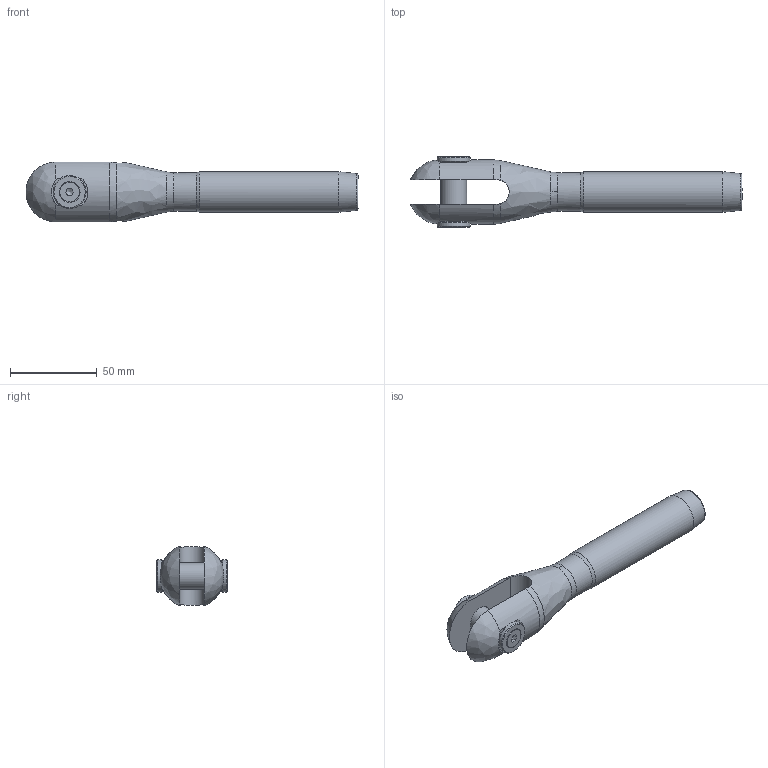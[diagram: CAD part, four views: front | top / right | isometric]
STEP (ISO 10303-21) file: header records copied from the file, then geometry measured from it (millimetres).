
FILE_DESCRIPTION(/* description */ (''),/* implementation_level */ '2;1');
FILE_NAME(/* name */ 'MAC 10_1,4418',/* time_stamp */ '2023-05-23T16:54:51+02:00',/* author */ (''),/* organization */ (''),/* preprocessor_version */ 'ST-DEVELOPER v16.5',/* originating_system */ 'Rhino 7.22',/* authorisation */ '');
FILE_SCHEMA (('CONFIG_CONTROL_DESIGN'));
Length unit declared in the file: millimetre
Products named in the file (1): Document
Bounding box: 191.09 x 40.86 x 34.25 mm (x, y, z)
Volume: 93322 mm3; surface area: 23978.1 mm2
Topology: 6 solids, 6 shells, 75 faces, 210 edges, 145 vertices
Faces by surface type: plane 29, bspline 24, cylinder 22
Full cylindrical faces by diameter (mm): 4.917 x2, 6 x2, 6.5 x2, 11.34 x2, 15 x1, 16 x2, 19 x2, 22.2 x1, 23.3 x1
Entity records: 3098 total; most frequent: CARTESIAN_POINT 1751, ORIENTED_EDGE 412, EDGE_CURVE 206, VERTEX_POINT 145, EDGE_LOOP 85, B_SPLINE_CURVE_WITH_KNOTS 84, ADVANCED_FACE 75, FACE_OUTER_BOUND 75
